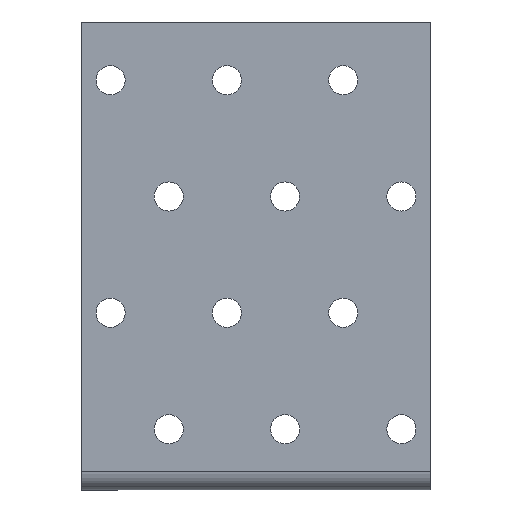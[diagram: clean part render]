
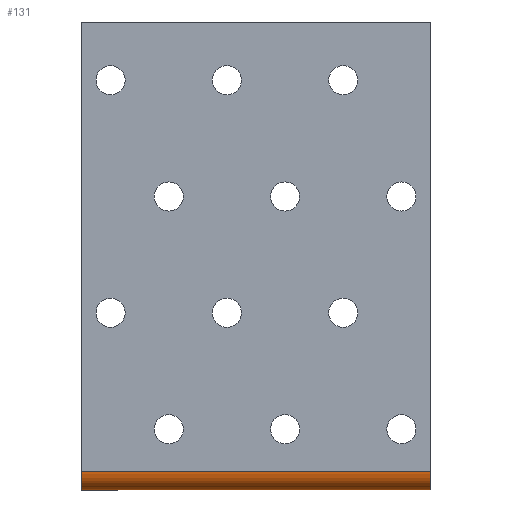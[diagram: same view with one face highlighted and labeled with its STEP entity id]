
A CAD part, front view. The second image highlights one B-rep face of the part: STEP entity #131.
In plain terms, the highlighted cylindrical face has radius 3.237 mm (diameter 6.473 mm), a partial arc.
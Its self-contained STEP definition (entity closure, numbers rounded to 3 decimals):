
#7 = CARTESIAN_POINT ( 'NONE',  ( 0., -2.5, -77.225 ) ) ;
#131 = ADVANCED_FACE ( 'NONE', ( #400 ), #583, .T. ) ;
#152 = ORIENTED_EDGE ( 'NONE', *, *, #1656, .F. ) ;
#176 = AXIS2_PLACEMENT_3D ( 'NONE', #1568, #1070, #1903 ) ;
#292 = LINE ( 'NONE', #7, #662 ) ;
#340 = EDGE_LOOP ( 'NONE', ( #1622, #152, #1134, #1474 ) ) ;
#343 = VECTOR ( 'NONE', #1307, 1000. ) ;
#400 = FACE_OUTER_BOUND ( 'NONE', #340, .T. ) ;
#583 = CYLINDRICAL_SURFACE ( 'NONE', #1180, 3.237 ) ;
#601 = VERTEX_POINT ( 'NONE', #1740 ) ;
#618 = CARTESIAN_POINT ( 'NONE',  ( -40.054, 0.737, -77.225 ) ) ;
#634 = EDGE_CURVE ( 'NONE', #1668, #1400, #1592, .T. ) ;
#652 = VERTEX_POINT ( 'NONE', #1449 ) ;
#662 = VECTOR ( 'NONE', #1359, 1000. ) ;
#737 = AXIS2_PLACEMENT_3D ( 'NONE', #1992, #1501, #1321 ) ;
#800 = EDGE_CURVE ( 'NONE', #601, #652, #1466, .T. ) ;
#825 = EDGE_CURVE ( 'NONE', #1400, #652, #1237, .T. ) ;
#1070 = DIRECTION ( 'NONE',  ( 1., 0., 0. ) ) ;
#1084 = DIRECTION ( 'NONE',  ( 0., 0., -1. ) ) ;
#1134 = ORIENTED_EDGE ( 'NONE', *, *, #634, .T. ) ;
#1180 = AXIS2_PLACEMENT_3D ( 'NONE', #618, #2071, #1084 ) ;
#1225 = CARTESIAN_POINT ( 'NONE',  ( 0., -2.5, -77.225 ) ) ;
#1237 = LINE ( 'NONE', #2150, #343 ) ;
#1307 = DIRECTION ( 'NONE',  ( 1., 0., 0. ) ) ;
#1321 = DIRECTION ( 'NONE',  ( 0., 0., 1. ) ) ;
#1359 = DIRECTION ( 'NONE',  ( 1., 0., 0. ) ) ;
#1400 = VERTEX_POINT ( 'NONE', #1612 ) ;
#1449 = CARTESIAN_POINT ( 'NONE',  ( 60., 0.737, -80.462 ) ) ;
#1466 = CIRCLE ( 'NONE', #737, 3.237 ) ;
#1474 = ORIENTED_EDGE ( 'NONE', *, *, #825, .T. ) ;
#1501 = DIRECTION ( 'NONE',  ( 1., 0., 0. ) ) ;
#1568 = CARTESIAN_POINT ( 'NONE',  ( 0., 0.737, -77.225 ) ) ;
#1592 = CIRCLE ( 'NONE', #176, 3.237 ) ;
#1612 = CARTESIAN_POINT ( 'NONE',  ( 0., 0.737, -80.462 ) ) ;
#1622 = ORIENTED_EDGE ( 'NONE', *, *, #800, .F. ) ;
#1656 = EDGE_CURVE ( 'NONE', #1668, #601, #292, .T. ) ;
#1668 = VERTEX_POINT ( 'NONE', #1225 ) ;
#1740 = CARTESIAN_POINT ( 'NONE',  ( 60., -2.5, -77.225 ) ) ;
#1903 = DIRECTION ( 'NONE',  ( 0., 0., 1. ) ) ;
#1992 = CARTESIAN_POINT ( 'NONE',  ( 60., 0.737, -77.225 ) ) ;
#2071 = DIRECTION ( 'NONE',  ( 1., 0., 0. ) ) ;
#2150 = CARTESIAN_POINT ( 'NONE',  ( 0., 0.737, -80.462 ) ) ;
